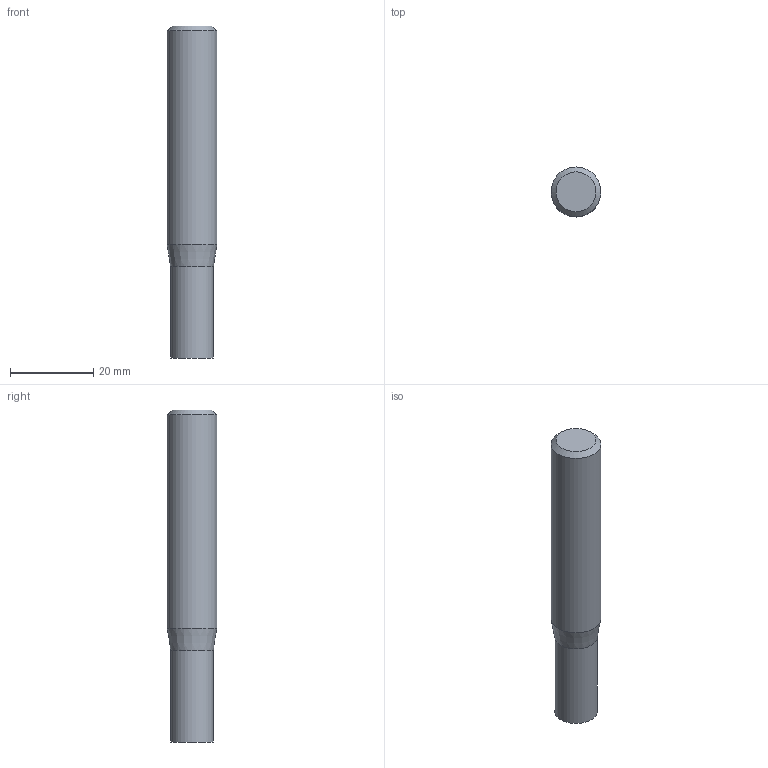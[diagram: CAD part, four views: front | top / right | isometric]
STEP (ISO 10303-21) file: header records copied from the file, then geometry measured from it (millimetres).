
FILE_DESCRIPTION((''),'2;1');
FILE_NAME('C:\Users\nsx150\AppData\Local\Temp\Mastercam 2021\98T1Q6BTT1\TEMP.step','2021-10-21T14:50:09',(''),(''),'STEP Write','Mastercam 2021 ... CNC Software, Inc.','');
FILE_SCHEMA(('AUTOMOTIVE_DESIGN'));
Length unit declared in the file: millimetre
Products named in the file (1): None
Bounding box: 12 x 12 x 80 mm (x, y, z)
Volume: 8285.5 mm3; surface area: 3221.1 mm2
Topology: 2 solids, 2 shells, 8 faces, 10 edges, 6 vertices
Faces by surface type: plane 4, cylinder 2, cone 2
Full cylindrical faces by diameter (mm): 10.3 x1, 12 x1
Entity records: 190 total; most frequent: DIRECTION 32, CARTESIAN_POINT 22, AXIS2_PLACEMENT_3D 16, ORIENTED_EDGE 12, EDGE_LOOP 12, STYLED_ITEM 11, ADVANCED_FACE 8, VERTEX_POINT 6
